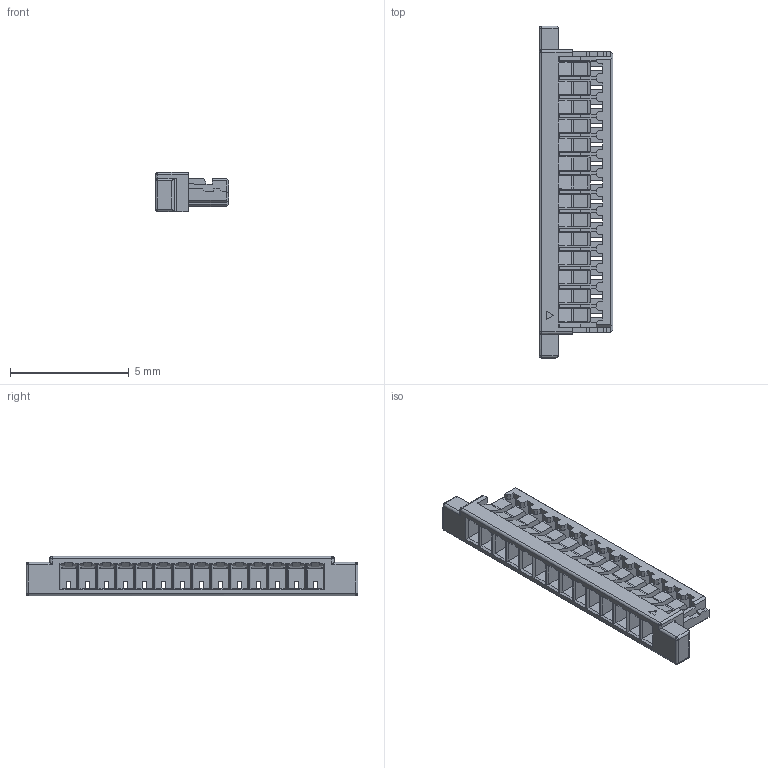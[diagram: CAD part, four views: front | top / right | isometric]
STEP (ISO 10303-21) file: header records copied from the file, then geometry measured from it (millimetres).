
FILE_DESCRIPTION((''),'2;1');
FILE_NAME('SCT0801H-14','2023-04-10T17:11:52',('Administrator'),(''),'CREO PARAMETRIC BY PTC INC, 2018050','CREO PARAMETRIC BY PTC INC, 2018050','');
FILE_SCHEMA(('CONFIG_CONTROL_DESIGN'));
Length unit declared in the file: millimetre
Products named in the file (1): SCT0801H-14
Bounding box: 3.1 x 14 x 1.65 mm (x, y, z)
Volume: 25 mm3; surface area: 253.3 mm2
Topology: 1 solids, 1 shells, 714 faces, 1977 edges, 1214 vertices
Faces by surface type: plane 640, cylinder 62, sphere 12
Entity records: 22238 total; most frequent: CARTESIAN_POINT 4161, ORIENTED_EDGE 3934, DIRECTION 3435, EDGE_CURVE 1967, VECTOR 1821, LINE 1821, VERTEX_POINT 1214, AXIS2_PLACEMENT_3D 807
